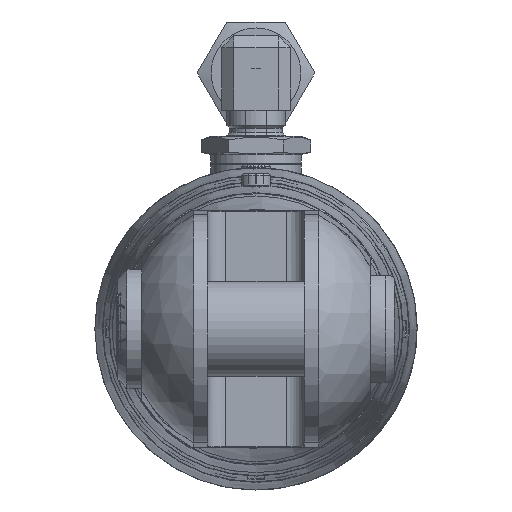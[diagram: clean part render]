
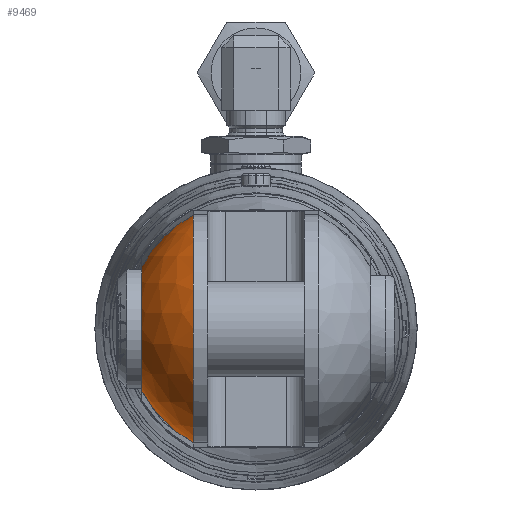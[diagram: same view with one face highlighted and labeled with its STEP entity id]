
A CAD part, left-side view. The second image highlights one B-rep face of the part: STEP entity #9469.
In plain terms, the highlighted spherical face has radius 21.732 mm.
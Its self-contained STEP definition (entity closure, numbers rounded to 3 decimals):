
#48=SPHERICAL_SURFACE('',#10403,21.732);
#1477=CIRCLE('',#10399,21.729);
#1478=CIRCLE('',#10401,21.729);
#1480=CIRCLE('',#10404,19.056);
#1481=CIRCLE('',#10405,10.447);
#1965=FACE_OUTER_BOUND('',#2520,.T.);
#2520=EDGE_LOOP('',(#8211,#8212,#8213,#8214));
#4568=VERTEX_POINT('',#16999);
#4571=VERTEX_POINT('',#17012);
#4573=VERTEX_POINT('',#17019);
#4574=VERTEX_POINT('',#17024);
#5827=EDGE_CURVE('',#4571,#4568,#1477,.T.);
#5829=EDGE_CURVE('',#4573,#4574,#1478,.T.);
#5834=EDGE_CURVE('',#4573,#4568,#1480,.T.);
#5835=EDGE_CURVE('',#4571,#4574,#1481,.T.);
#8211=ORIENTED_EDGE('',*,*,#5834,.T.);
#8212=ORIENTED_EDGE('',*,*,#5827,.F.);
#8213=ORIENTED_EDGE('',*,*,#5835,.T.);
#8214=ORIENTED_EDGE('',*,*,#5829,.F.);
#9469=ADVANCED_FACE('',(#1965),#48,.T.);
#10399=AXIS2_PLACEMENT_3D('',#17016,#12677,#12678);
#10401=AXIS2_PLACEMENT_3D('',#17025,#12681,#12682);
#10403=AXIS2_PLACEMENT_3D('',#17039,#12685,#12686);
#10404=AXIS2_PLACEMENT_3D('',#17040,#12687,#12688);
#10405=AXIS2_PLACEMENT_3D('',#17041,#12689,#12690);
#12677=DIRECTION('center_axis',(1.,0.,0.));
#12678=DIRECTION('ref_axis',(0.,0.,
1.));
#12681=DIRECTION('center_axis',(1.,0.,0.));
#12682=DIRECTION('ref_axis',(0.,0.,
1.));
#12685=DIRECTION('center_axis',(0.,0.,1.));
#12686=DIRECTION('ref_axis',(-1.,0.,0.));
#12687=DIRECTION('center_axis',(0.,1.,0.));
#12688=DIRECTION('ref_axis',(-0.018,0.,1.));
#12689=DIRECTION('center_axis',(0.,-1.,0.));
#12690=DIRECTION('ref_axis',(0.,0.,
-1.));
#16999=CARTESIAN_POINT('',(-1094.135,10.447,19.052));
#17012=CARTESIAN_POINT('',(-1094.135,19.056,10.441));
#17016=CARTESIAN_POINT('Origin',(-1094.135,0.,
0.));
#17019=CARTESIAN_POINT('',(-1094.135,10.447,-19.052));
#17024=CARTESIAN_POINT('',(-1094.135,19.056,-10.441));
#17025=CARTESIAN_POINT('Origin',(-1094.135,0.,
0.));
#17039=CARTESIAN_POINT('Origin',(-1093.768,0.,0.));
#17040=CARTESIAN_POINT('Origin',(-1093.768,10.447,0.));
#17041=CARTESIAN_POINT('Origin',(-1093.768,19.056,0.));
